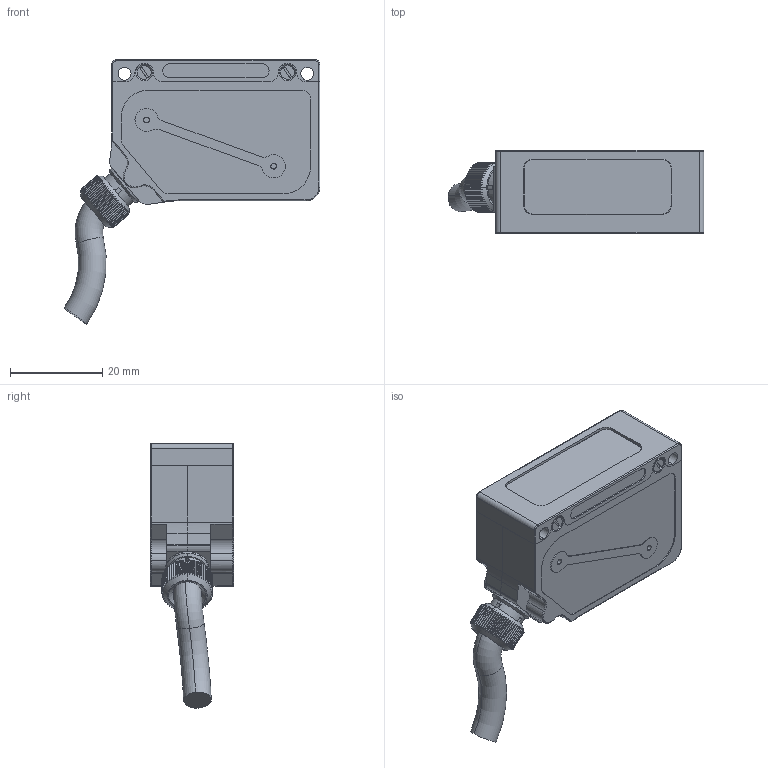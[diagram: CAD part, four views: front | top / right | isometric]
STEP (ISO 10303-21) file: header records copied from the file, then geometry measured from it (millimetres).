
FILE_DESCRIPTION (( 'STEP AP203' ), '1' );
FILE_NAME ('ÐÔ 602 3D DEMO.STEP', '2019-06-17T05:07:18', ( 'user' ), ( 'Ref' ), 'SwSTEP 2.0', 'SolidWorks 2015', '' );
FILE_SCHEMA (( 'CONFIG_CONTROL_DESIGN' ));
Length unit declared in the file: millimetre
Products named in the file (10): Ãàéêà êàá ââ; Âèíò_Ì1.6õ4; ÐÔ 611.00.044-02_Êðûøêà íîâ.ýëåêòð.; ÐÔ 611.03.043_Êðûøêà íîâ. ýëåêòð.; ÐÔ 611.03.001_Êîðïóñ íîâ. ýë.; Ñâåòîôèëüòð 10õ1,5; RF611.00.22_Îêíî_32õ12õ1; 俶 602 3D DEMO; 俶 611.00.001_忺摎錪 N6; ﾐﾔ 611.00.0xx_ﾊ珮. 粐鮏 2
Assembly tree (14 placements, depth 2):
  俶 602 3D DEMO
    ÐÔ 611.03.001_Êîðïóñ íîâ. ýë.
    RF611.00.22_Îêíî_32õ12õ1
    俶 611.00.001_忺摎錪 N6
    ﾐﾔ 611.00.0xx_ﾊ珮. 粐鮏 2
    Ãàéêà êàá ââ
    Âèíò_Ì1.6õ4  x6
    ÐÔ 611.00.044-02_Êðûøêà íîâ.ýëåêòð.
    ÐÔ 611.03.043_Êðûøêà íîâ. ýëåêòð.
    Ñâåòîôèëüòð 10õ1,5
Bounding box: 55.32 x 18 x 57.15 mm (x, y, z)
Volume: 8547.4 mm3; surface area: 14226.6 mm2
Topology: 14 solids, 14 shells, 817 faces, 2202 edges, 1410 vertices
Faces by surface type: plane 353, cylinder 336, cone 94, torus 30, sphere 4
Entity records: 25157 total; most frequent: CARTESIAN_POINT 4975, DIRECTION 4037, ORIENTED_EDGE 4032, EDGE_CURVE 2016, AXIS2_PLACEMENT_3D 1543, VERTEX_POINT 1305, VECTOR 951, LINE 951
